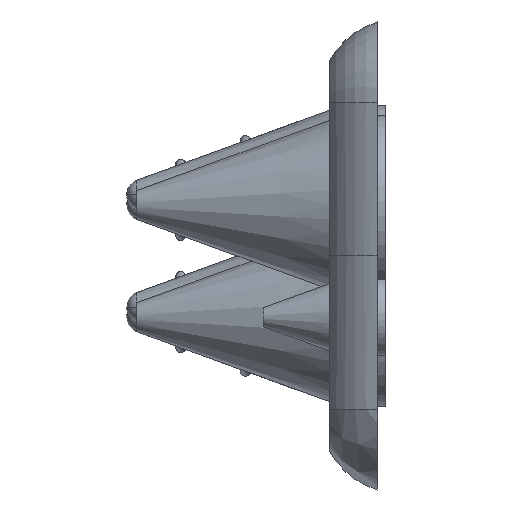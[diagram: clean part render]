
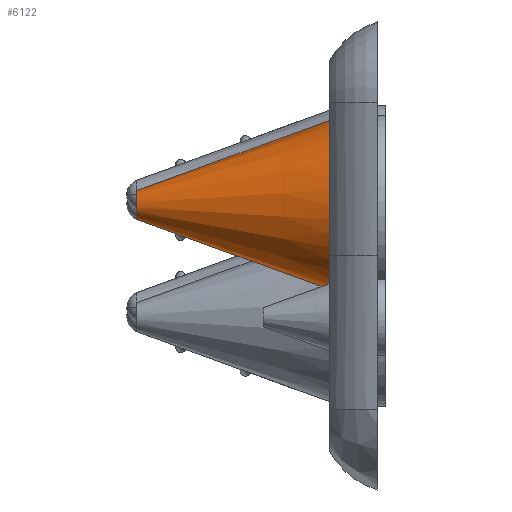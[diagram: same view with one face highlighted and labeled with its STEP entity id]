
A CAD part, left-side view. The second image highlights one B-rep face of the part: STEP entity #6122.
In plain terms, the highlighted conical face has half-angle 20 degrees and reference radius 16.564 mm.
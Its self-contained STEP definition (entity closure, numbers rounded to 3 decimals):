
#1075 = ORIENTED_EDGE ( 'NONE', *, *, #4250, .T. ) ;
#1214 = ORIENTED_EDGE ( 'NONE', *, *, #3538, .T. ) ;
#1248 = ORIENTED_EDGE ( 'NONE', *, *, #3698, .F. ) ;
#1358 = ORIENTED_EDGE ( 'NONE', *, *, #3702, .F. ) ;
#1716 = FACE_OUTER_BOUND ( 'NONE', #8843, .T. ) ;
#1723 = CONICAL_SURFACE ( 'NONE', #20993, 16.564, 0.349 ) ;
#3538 = EDGE_CURVE ( 'NONE', #17122, #17105, #11875, .T. ) ;
#3698 = EDGE_CURVE ( 'NONE', #17086, #17105, #12094, .T. ) ;
#3702 = EDGE_CURVE ( 'NONE', #17117, #17086, #12096, .T. ) ;
#4137 = CARTESIAN_POINT ( 'NONE',  ( -203.7, 45.264, -35.7 ) ) ;
#4138 = DIRECTION ( 'NONE',  ( 0., -1., 0. ) ) ;
#4139 = DIRECTION ( 'NONE',  ( 0., 0., -1. ) ) ;
#4250 = EDGE_CURVE ( 'NONE', #17117, #17122, #12253, .T. ) ;
#4407 = CARTESIAN_POINT ( 'NONE',  ( -203.7, 7.5, -19.136 ) ) ;
#4408 = DIRECTION ( 'NONE',  ( 0., -0.94, 0.342 ) ) ;
#4409 = CARTESIAN_POINT ( 'NONE',  ( -203.7, 7.5, -35.7 ) ) ;
#4410 = DIRECTION ( 'NONE',  ( 0., -1., 0. ) ) ;
#4411 = DIRECTION ( 'NONE',  ( 0., 0., 1. ) ) ;
#6122 = ADVANCED_FACE ( 'NONE', ( #1716 ), #1723, .T. ) ;
#8843 = EDGE_LOOP ( 'NONE', ( #1358, #1075, #1214, #1248 ) ) ;
#11875 = LINE ( 'NONE', #19587, #11882 ) ;
#11882 = VECTOR ( 'NONE', #19582, 1000. ) ;
#12094 = CIRCLE ( 'NONE', #20849, 16.564 ) ;
#12096 = LINE ( 'NONE', #4407, #12098 ) ;
#12098 = VECTOR ( 'NONE', #4408, 1000. ) ;
#12253 = CIRCLE ( 'NONE', #20893, 2.819 ) ;
#15086 = DIRECTION ( 'NONE',  ( 0., 0., -1. ) ) ;
#15088 = DIRECTION ( 'NONE',  ( 0., -1., 0. ) ) ;
#15090 = CARTESIAN_POINT ( 'NONE',  ( -203.7, 7.5, -35.7 ) ) ;
#17086 = VERTEX_POINT ( 'NONE', #20008 ) ;
#17105 = VERTEX_POINT ( 'NONE', #20027 ) ;
#17117 = VERTEX_POINT ( 'NONE', #20039 ) ;
#17122 = VERTEX_POINT ( 'NONE', #20044 ) ;
#19582 = DIRECTION ( 'NONE',  ( 0., -0.94, -0.342 ) ) ;
#19587 = CARTESIAN_POINT ( 'NONE',  ( -203.7, 7.5, -52.264 ) ) ;
#20008 = CARTESIAN_POINT ( 'NONE',  ( -203.7, 7.5, -19.136 ) ) ;
#20027 = CARTESIAN_POINT ( 'NONE',  ( -203.7, 7.5, -52.264 ) ) ;
#20039 = CARTESIAN_POINT ( 'NONE',  ( -203.7, 45.264, -32.881 ) ) ;
#20044 = CARTESIAN_POINT ( 'NONE',  ( -203.7, 45.264, -38.519 ) ) ;
#20849 = AXIS2_PLACEMENT_3D ( 'NONE', #4409, #4410, #4411 ) ;
#20893 = AXIS2_PLACEMENT_3D ( 'NONE', #4137, #4138, #4139 ) ;
#20993 = AXIS2_PLACEMENT_3D ( 'NONE', #15090, #15088, #15086 ) ;
